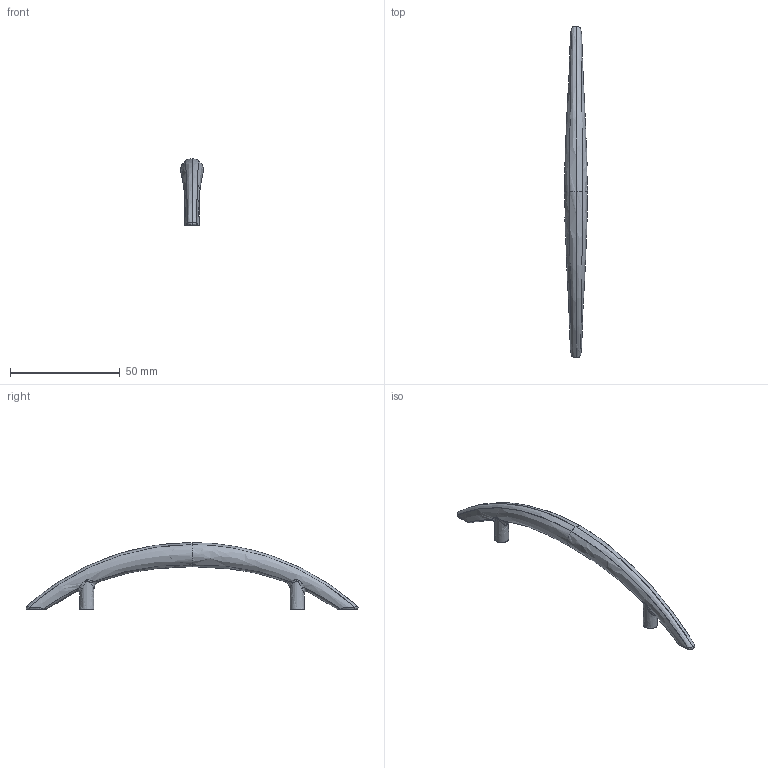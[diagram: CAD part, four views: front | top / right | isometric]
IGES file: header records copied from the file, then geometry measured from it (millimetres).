
Start section: C
Global section: file name: 0074-152.igs; native system: By Siemens PLM Incorporated; preprocessor: XPlus GENERIC/IGES 16.0.42; author: Author; organization: Title; date: 20260104.155757; units: millimetre
Bounding box: 10.5 x 151.38 x 30.5 mm (x, y, z)
Surface area: 5058.2 mm2 (no closed solid volume)
Topology: 0 solids, 0 shells, 64 faces, 359 edges, 355 vertices
Faces by surface type: bspline 64
